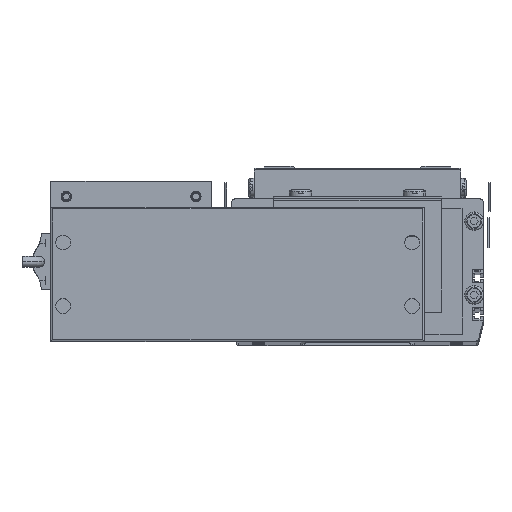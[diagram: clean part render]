
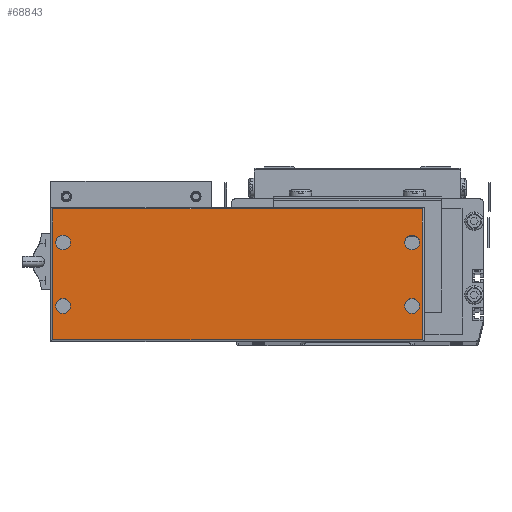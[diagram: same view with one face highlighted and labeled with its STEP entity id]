
A CAD part, top view. The second image highlights one B-rep face of the part: STEP entity #68843.
In plain terms, the highlighted planar face has unit normal (0, 0, 1).
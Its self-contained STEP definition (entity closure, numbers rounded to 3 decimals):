
#67190 = VERTEX_POINT ( 'NONE', #71481 ) ;
#67192 = EDGE_CURVE ( 'NONE', #67448, #67368, #71440, .T. ) ;
#67259 = EDGE_CURVE ( 'NONE', #67386, #67366, #71806, .T. ) ;
#67284 = VERTEX_POINT ( 'NONE', #71621 ) ;
#67328 = VERTEX_POINT ( 'NONE', #72023 ) ;
#67330 = VERTEX_POINT ( 'NONE', #71960 ) ;
#67332 = EDGE_CURVE ( 'NONE', #67284, #67190, #72052, .T. ) ;
#67366 = VERTEX_POINT ( 'NONE', #72153 ) ;
#67368 = VERTEX_POINT ( 'NONE', #72341 ) ;
#67371 = EDGE_CURVE ( 'NONE', #67330, #67328, #72308, .T. ) ;
#67386 = VERTEX_POINT ( 'NONE', #72272 ) ;
#67448 = VERTEX_POINT ( 'NONE', #71983 ) ;
#68814 = EDGE_LOOP ( 'NONE', ( #68846, #68845 ) ) ;
#68842 = EDGE_LOOP ( 'NONE', ( #68920, #68922 ) ) ;
#68843 = ADVANCED_FACE ( 'NONE', ( #78962, #78814, #78862, #78811, #78822 ), #78863, .T. ) ;
#68845 = ORIENTED_EDGE ( 'NONE', *, *, #67192, .F. ) ;
#68846 = ORIENTED_EDGE ( 'NONE', *, *, #68916, .F. ) ;
#68849 = EDGE_LOOP ( 'NONE', ( #68918, #69718 ) ) ;
#68916 = EDGE_CURVE ( 'NONE', #67368, #67448, #78969, .T. ) ;
#68918 = ORIENTED_EDGE ( 'NONE', *, *, #68925, .F. ) ;
#68919 = EDGE_CURVE ( 'NONE', #67190, #67284, #78903, .T. ) ;
#68920 = ORIENTED_EDGE ( 'NONE', *, *, #68919, .F. ) ;
#68922 = ORIENTED_EDGE ( 'NONE', *, *, #67332, .F. ) ;
#68925 = EDGE_CURVE ( 'NONE', #67328, #67330, #78893, .T. ) ;
#69406 = ORIENTED_EDGE ( 'NONE', *, *, #67259, .F. ) ;
#69414 = VERTEX_POINT ( 'NONE', #79725 ) ;
#69550 = ORIENTED_EDGE ( 'NONE', *, *, #69839, .F. ) ;
#69551 = EDGE_CURVE ( 'NONE', #69662, #69721, #92652, .T. ) ;
#69662 = VERTEX_POINT ( 'NONE', #79990 ) ;
#69714 = EDGE_CURVE ( 'NONE', #69414, #69662, #80106, .T. ) ;
#69716 = EDGE_LOOP ( 'NONE', ( #69750, #69724, #69829, #69723 ) ) ;
#69718 = ORIENTED_EDGE ( 'NONE', *, *, #67371, .F. ) ;
#69721 = VERTEX_POINT ( 'NONE', #80097 ) ;
#69723 = ORIENTED_EDGE ( 'NONE', *, *, #69831, .T. ) ;
#69724 = ORIENTED_EDGE ( 'NONE', *, *, #69551, .T. ) ;
#69750 = ORIENTED_EDGE ( 'NONE', *, *, #69714, .T. ) ;
#69829 = ORIENTED_EDGE ( 'NONE', *, *, #69833, .T. ) ;
#69831 = EDGE_CURVE ( 'NONE', #69841, #69414, #80555, .T. ) ;
#69833 = EDGE_CURVE ( 'NONE', #69721, #69841, #80331, .T. ) ;
#69836 = EDGE_LOOP ( 'NONE', ( #69550, #69406 ) ) ;
#69839 = EDGE_CURVE ( 'NONE', #67366, #67386, #80418, .T. ) ;
#69841 = VERTEX_POINT ( 'NONE', #80525 ) ;
#71417 = DIRECTION ( 'NONE',  ( 0., 0., 1. ) ) ;
#71418 = CARTESIAN_POINT ( 'NONE',  ( -157.75, 53., 44. ) ) ;
#71419 = AXIS2_PLACEMENT_3D ( 'NONE', #71418, #71417, #71429 ) ;
#71429 = DIRECTION ( 'NONE',  ( 1., 0., 0. ) ) ;
#71440 = CIRCLE ( 'NONE', #71419, 4. ) ;
#71481 = CARTESIAN_POINT ( 'NONE',  ( -153.75, 19., 44. ) ) ;
#71621 = CARTESIAN_POINT ( 'NONE',  ( -161.75, 19., 44. ) ) ;
#71658 = AXIS2_PLACEMENT_3D ( 'NONE', #71714, #71759, #71758 ) ;
#71714 = CARTESIAN_POINT ( 'NONE',  ( 29.25, 53., 44. ) ) ;
#71758 = DIRECTION ( 'NONE',  ( 1., 0., 0. ) ) ;
#71759 = DIRECTION ( 'NONE',  ( 0., 0., 1. ) ) ;
#71806 = CIRCLE ( 'NONE', #71658, 4. ) ;
#71960 = CARTESIAN_POINT ( 'NONE',  ( 25.25, 19., 44. ) ) ;
#71983 = CARTESIAN_POINT ( 'NONE',  ( -161.75, 53., 44. ) ) ;
#72023 = CARTESIAN_POINT ( 'NONE',  ( 33.25, 19., 44. ) ) ;
#72052 = CIRCLE ( 'NONE', #72161, 4. ) ;
#72153 = CARTESIAN_POINT ( 'NONE',  ( 33.25, 53., 44. ) ) ;
#72157 = DIRECTION ( 'NONE',  ( 1., 0., 0. ) ) ;
#72159 = DIRECTION ( 'NONE',  ( 0., 0., 1. ) ) ;
#72160 = CARTESIAN_POINT ( 'NONE',  ( -157.75, 19., 44. ) ) ;
#72161 = AXIS2_PLACEMENT_3D ( 'NONE', #72160, #72159, #72157 ) ;
#72272 = CARTESIAN_POINT ( 'NONE',  ( 25.25, 53., 44. ) ) ;
#72285 = DIRECTION ( 'NONE',  ( 1., 0., 0. ) ) ;
#72286 = DIRECTION ( 'NONE',  ( 0., 0., 1. ) ) ;
#72288 = CARTESIAN_POINT ( 'NONE',  ( 29.25, 19., 44. ) ) ;
#72290 = AXIS2_PLACEMENT_3D ( 'NONE', #72288, #72286, #72285 ) ;
#72308 = CIRCLE ( 'NONE', #72290, 4. ) ;
#72341 = CARTESIAN_POINT ( 'NONE',  ( -153.75, 53., 44. ) ) ;
#78677 = AXIS2_PLACEMENT_3D ( 'NONE', #78806, #78804, #78861 ) ;
#78804 = DIRECTION ( 'NONE',  ( 0., 0., 1. ) ) ;
#78806 = CARTESIAN_POINT ( 'NONE',  ( -164.25, 0., 44. ) ) ;
#78811 = FACE_BOUND ( 'NONE', #69836, .T. ) ;
#78814 = FACE_BOUND ( 'NONE', #68842, .T. ) ;
#78822 = FACE_OUTER_BOUND ( 'NONE', #69716, .T. ) ;
#78837 = DIRECTION ( 'NONE',  ( 1., 0., 0. ) ) ;
#78838 = DIRECTION ( 'NONE',  ( 0., 0., 1. ) ) ;
#78844 = AXIS2_PLACEMENT_3D ( 'NONE', #78974, #78838, #78837 ) ;
#78852 = CARTESIAN_POINT ( 'NONE',  ( -157.75, 53., 44. ) ) ;
#78861 = DIRECTION ( 'NONE',  ( 1., 0., 0. ) ) ;
#78862 = FACE_BOUND ( 'NONE', #68849, .T. ) ;
#78863 = PLANE ( 'NONE',  #78677 ) ;
#78893 = CIRCLE ( 'NONE', #78844, 4. ) ;
#78897 = DIRECTION ( 'NONE',  ( 1., 0., 0. ) ) ;
#78899 = DIRECTION ( 'NONE',  ( 0., 0., 1. ) ) ;
#78900 = CARTESIAN_POINT ( 'NONE',  ( -157.75, 19., 44. ) ) ;
#78902 = AXIS2_PLACEMENT_3D ( 'NONE', #78900, #78899, #78897 ) ;
#78903 = CIRCLE ( 'NONE', #78902, 4. ) ;
#78911 = DIRECTION ( 'NONE',  ( 1., 0., 0. ) ) ;
#78913 = DIRECTION ( 'NONE',  ( 0., 0., 1. ) ) ;
#78915 = AXIS2_PLACEMENT_3D ( 'NONE', #78852, #78913, #78911 ) ;
#78962 = FACE_BOUND ( 'NONE', #68814, .T. ) ;
#78969 = CIRCLE ( 'NONE', #78915, 4. ) ;
#78974 = CARTESIAN_POINT ( 'NONE',  ( 29.25, 19., 44. ) ) ;
#79725 = CARTESIAN_POINT ( 'NONE',  ( -163.25, 1., 44. ) ) ;
#79953 = DIRECTION ( 'NONE',  ( 1., 0., 0. ) ) ;
#79954 = VECTOR ( 'NONE', #79953, 1000. ) ;
#79990 = CARTESIAN_POINT ( 'NONE',  ( 34.75, 1., 44. ) ) ;
#80097 = CARTESIAN_POINT ( 'NONE',  ( 34.75, 71., 44. ) ) ;
#80106 = LINE ( 'NONE', #80273, #79954 ) ;
#80273 = CARTESIAN_POINT ( 'NONE',  ( 35.75, 1., 44. ) ) ;
#80294 = DIRECTION ( 'NONE',  ( 1., 0., 0. ) ) ;
#80295 = DIRECTION ( 'NONE',  ( 0., 0., 1. ) ) ;
#80331 = LINE ( 'NONE', #80632, #80631 ) ;
#80335 = DIRECTION ( 'NONE',  ( 0., -1., 0. ) ) ;
#80418 = CIRCLE ( 'NONE', #80557, 4. ) ;
#80516 = VECTOR ( 'NONE', #80335, 1000. ) ;
#80518 = CARTESIAN_POINT ( 'NONE',  ( -163.25, 0., 44. ) ) ;
#80525 = CARTESIAN_POINT ( 'NONE',  ( -163.25, 71., 44. ) ) ;
#80552 = CARTESIAN_POINT ( 'NONE',  ( 29.25, 53., 44. ) ) ;
#80555 = LINE ( 'NONE', #80518, #80516 ) ;
#80557 = AXIS2_PLACEMENT_3D ( 'NONE', #80552, #80295, #80294 ) ;
#80630 = DIRECTION ( 'NONE',  ( -1., 0., 0. ) ) ;
#80631 = VECTOR ( 'NONE', #80630, 1000. ) ;
#80632 = CARTESIAN_POINT ( 'NONE',  ( -164.25, 71., 44. ) ) ;
#92393 = DIRECTION ( 'NONE',  ( 0., 1., 0. ) ) ;
#92395 = CARTESIAN_POINT ( 'NONE',  ( 34.75, 72., 44. ) ) ;
#92652 = LINE ( 'NONE', #92395, #92934 ) ;
#92934 = VECTOR ( 'NONE', #92393, 1000. ) ;
